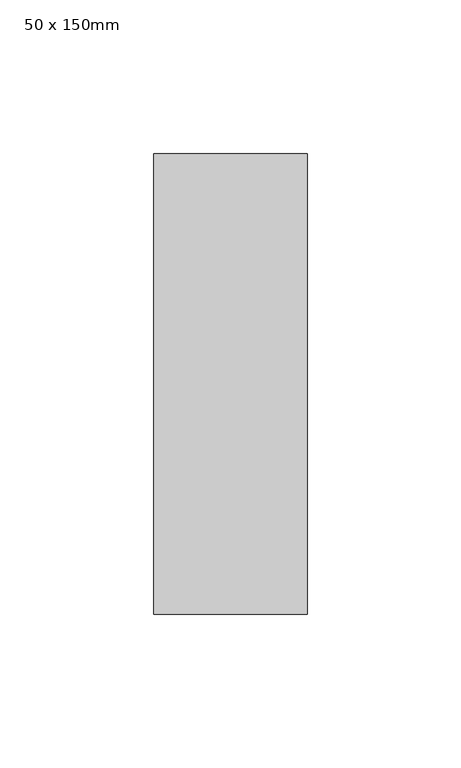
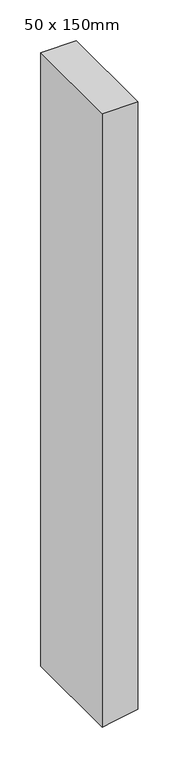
"""IFC4 building model written with IfcOpenShell, lengths in millimetres: member geometry, 矩形豎框 : 50 x 150mm."""

import ifcopenshell
import ifcopenshell.guid

model = None  # the IFC model being written
_history = None  # IfcOwnerHistory: only IFC2X3 demands one
_inside = {}  # id of a spatial element -> (the spatial element, [elements in it])
_under = {}  # id of a project, library or spatial element -> (it, [spatial elements below it])
_declared = {}  # id of a project -> (the project, [libraries it declares])
_typed = {}  # id of a type object -> (the type object, [elements of that type])
_made_of = {}  # id of a material, layer set ... -> (it, [elements and type objects made of it])


def new_model(schema):
    """Start an empty IFC model of exactly this schema.

    Asked for "IFC4X3", IfcOpenShell would pick the latest addendum, in which some entities
    have other attributes; the version numbers below select the first issue.
    IFC2X3 requires an IfcOwnerHistory on every rooted entity: one is made here for all.
    """
    global model, _history
    if schema == "IFC4X3":
        model = ifcopenshell.file(schema_version=(4, 3, 0, 0))
    else:
        model = ifcopenshell.file(schema=schema)
    _inside.clear()
    _under.clear()
    _declared.clear()
    _typed.clear()
    _made_of.clear()
    _history = None
    if model.schema == "IFC2X3":
        org = make("IfcOrganization", Name="unknown")
        user = make(
            "IfcPersonAndOrganization",
            ThePerson=make("IfcPerson", FamilyName="unknown"),
            TheOrganization=org,
        )
        app = make(
            "IfcApplication",
            ApplicationDeveloper=org,
            Version="unknown",
            ApplicationFullName="unknown",
            ApplicationIdentifier="unknown",
        )
        _history = make(
            "IfcOwnerHistory",
            OwningUser=user,
            OwningApplication=app,
            ChangeAction="ADDED",
            CreationDate=0,
        )
    return model


def make(cls, **values):
    """One entity of the class cls with the attributes given. An attribute that is None is left unset."""
    return model.create_entity(
        cls, **{name: value for name, value in values.items() if value is not None}
    )


def rooted(cls, **values):
    """An entity with a GlobalId (a new one), such as an element, a storey or a relation."""
    return make(cls, GlobalId=ifcopenshell.guid.new(), OwnerHistory=_history, **values)


def si_unit(unit_type, name, prefix=None):
    """IfcSIUnit, for example si_unit("LENGTHUNIT", "METRE", prefix="MILLI")."""
    return make("IfcSIUnit", UnitType=unit_type, Prefix=prefix, Name=name)


def assignment(units):
    """IfcUnitAssignment: the units of a project."""
    return None if units is None else make("IfcUnitAssignment", Units=units)


def point(xyz):
    """IfcCartesianPoint."""
    return None if xyz is None else make("IfcCartesianPoint", Coordinates=xyz)


def direction(xyz):
    """IfcDirection."""
    return None if xyz is None else make("IfcDirection", DirectionRatios=xyz)


def frame(location, z_axis=None, x_axis=None):
    """IfcAxis2Placement3D, a coordinate frame: its origin and axes. An axis left out is left unset."""
    return make(
        "IfcAxis2Placement3D",
        Location=point(location),
        Axis=direction(z_axis),
        RefDirection=direction(x_axis),
    )


def origin():
    """The frame at (0, 0, 0) with its axes left unset."""
    return frame((0.0, 0.0, 0.0))


def place(relative_to, where):
    """IfcLocalPlacement: puts the frame where relative to a parent placement (None: the world)."""
    return make(
        "IfcLocalPlacement", PlacementRelTo=relative_to, RelativePlacement=where
    )


def context(
    kind, dimensions, precision=None, world=None, true_north=None, identifier=None
):
    """IfcGeometricRepresentationContext, for example the 3D "Model" context."""
    return make(
        "IfcGeometricRepresentationContext",
        ContextIdentifier=identifier,
        ContextType=kind,
        CoordinateSpaceDimension=dimensions,
        Precision=precision,
        WorldCoordinateSystem=world,
        TrueNorth=true_north,
    )


def project(units=None, contexts=None):
    """IfcProject with its units and contexts."""
    return rooted(
        "IfcProject",
        Name="project",
        RepresentationContexts=contexts,
        UnitsInContext=assignment(units),
    )


def spatial(cls, under=None, at=None, **own):
    """A site, building, storey or space (cls), placed at a placement, below another one or the project."""
    s = rooted(cls, ObjectPlacement=at, **own)
    if under is not None:
        _under.setdefault(under.id(), (under, []))[1].append(s)
    return s


def polyline(points):
    """IfcPolyline through the points."""
    return make("IfcPolyline", Points=[point(p) for p in points])


def outline(outer, holes=None, kind="AREA"):
    """IfcArbitraryClosedProfileDef: a profile drawn as a closed curve; with holes, ...WithVoids."""
    if holes is None:
        return make("IfcArbitraryClosedProfileDef", ProfileType=kind, OuterCurve=outer)
    return make(
        "IfcArbitraryProfileDefWithVoids",
        ProfileType=kind,
        OuterCurve=outer,
        InnerCurves=holes,
    )


def extrude(swept, where, along, depth):
    """IfcExtrudedAreaSolid: the profile swept, set in the frame where, extruded along a direction by depth."""
    return make(
        "IfcExtrudedAreaSolid",
        SweptArea=swept,
        Position=where,
        ExtrudedDirection=direction(along),
        Depth=depth,
    )


def shape(context_of_items, identifier, shape_type, items):
    """IfcShapeRepresentation: the items that make up one representation, for example the "Body"."""
    return make(
        "IfcShapeRepresentation",
        ContextOfItems=context_of_items,
        RepresentationIdentifier=identifier,
        RepresentationType=shape_type,
        Items=items,
    )


def source(mapping_origin, context_of_items, identifier, shape_type, items):
    """IfcRepresentationMap: a shape defined once, which mapped items show again and again."""
    return make(
        "IfcRepresentationMap",
        MappingOrigin=mapping_origin,
        MappedRepresentation=shape(context_of_items, identifier, shape_type, items),
    )


def transform(
    local_origin,
    x_axis=None,
    y_axis=None,
    z_axis=None,
    scale=None,
    scale2=None,
    scale3=None,
    uniform=True,
):
    """IfcCartesianTransformationOperator3D, or its non-uniform kind. x_axis, y_axis, z_axis: its Axis1, 2, 3."""
    if uniform:
        return make(
            "IfcCartesianTransformationOperator3D",
            Axis1=direction(x_axis),
            Axis2=direction(y_axis),
            LocalOrigin=point(local_origin),
            Scale=scale,
            Axis3=direction(z_axis),
        )
    return make(
        "IfcCartesianTransformationOperator3DnonUniform",
        Axis1=direction(x_axis),
        Axis2=direction(y_axis),
        LocalOrigin=point(local_origin),
        Scale=scale,
        Axis3=direction(z_axis),
        Scale2=scale2,
        Scale3=scale3,
    )


def mapped(mapping_source, mapping_target):
    """IfcMappedItem: shows the shape of a source again, moved by a transform."""
    return make(
        "IfcMappedItem", MappingSource=mapping_source, MappingTarget=mapping_target
    )


def made_of(thing, what):
    """Note that an element or type object is made of a material, layer set ...; save() writes the relation."""
    if what is not None:
        _made_of.setdefault(what.id(), (what, []))[1].append(thing)
    return thing


def element(
    cls,
    number,
    at=None,
    inside=None,
    cuts=None,
    type_object=None,
    material=None,
    context=None,
    identifier="Body",
    shape_type=None,
    held_by="IfcProductDefinitionShape",
    body=None,
    shapes=None,
    **own,
):
    """One element of the class cls, such as IfcWall. Its Tag is "e" and its number.

    at: its placement. inside: the storey or other place that contains it. cuts: it is an
    opening in that element (IfcRelVoidsElement). A single representation is given by context,
    identifier, shape_type and body (its items); several are given by shapes. held_by: the class
    of the entity that holds the representations. save() writes the other relations.
    """
    e = rooted(cls, Tag="e%d" % number, ObjectPlacement=at, **own)
    if body is not None:
        shapes = [shape(context, identifier, shape_type, body)]
    if shapes is not None:
        e.Representation = make(held_by, Representations=shapes)
    if inside is not None:
        _inside.setdefault(inside.id(), (inside, []))[1].append(e)
    if cuts is not None:
        rooted(
            "IfcRelVoidsElement", RelatingBuildingElement=cuts, RelatedOpeningElement=e
        )
    if type_object is not None:
        _typed.setdefault(type_object.id(), (type_object, []))[1].append(e)
    return made_of(e, material)


def aggregate(whole, parts):
    """IfcRelAggregates: a whole, such as a stair, and the parts it consists of."""
    return rooted("IfcRelAggregates", RelatingObject=whole, RelatedObjects=parts)


def save(model, path):
    """Write the relations noted so far, then the file.

    IfcRelAggregates (storeys below a building ...), IfcRelContainedInSpatialStructure (elements
    in a storey), IfcRelDefinesByType, IfcRelAssociatesMaterial and IfcRelDeclares: one each for
    every whole, place, type object, material and project.
    """
    for whole, parts in _under.values():
        aggregate(whole, parts)
    for where, things in _inside.values():
        rooted(
            "IfcRelContainedInSpatialStructure",
            RelatedElements=things,
            RelatingStructure=where,
        )
    for kind, things in _typed.values():
        rooted("IfcRelDefinesByType", RelatedObjects=things, RelatingType=kind)
    for what, things in _made_of.values():
        rooted("IfcRelAssociatesMaterial", RelatedObjects=things, RelatingMaterial=what)
    for by, libraries in _declared.values():
        rooted("IfcRelDeclares", RelatingContext=by, RelatedDefinitions=libraries)
    model.write(path)


def member_50_x_150mm_05ab2822(model_context):
    return source(origin(), model_context, "Body", "SweptSolid", [
        extrude(outline(polyline([(0.0, 25.0), (0.0, -25.0), (-914.9918473, -25.0), (-912.1146157, -8.6824089), (-906.1754983, 25.0), (0.0, 25.0)])), frame((0.0, -75.0, 0.0), z_axis=(0.0, 1.0, 0.0), x_axis=(0.0, 0.0, 1.0)), (0.0, 0.0, 1.0), 150.0),
    ])


if __name__ == "__main__":
    model = new_model("IFC4")
    model_context = context("Model", 3, world=origin())
    ifc_project = project(units=[si_unit("LENGTHUNIT", "METRE", prefix="MILLI")], contexts=[model_context])
    site = spatial("IfcSite", under=ifc_project)
    building = spatial("IfcBuilding", under=site)
    placement = place(None, origin())
    member_50_x_150mm_shape = member_50_x_150mm_05ab2822(model_context)
    element("IfcMember", 1, ObjectType="矩形豎框 : 50 x 150mm", at=placement, inside=building, context=model_context, shape_type="MappedRepresentation", body=[
        mapped(member_50_x_150mm_shape, transform((0.0, 0.0, 0.0), x_axis=(1.0, 0.0, 0.0), y_axis=(0.0, 1.0, 0.0), z_axis=(0.0, 0.0, 1.0))),
    ])
    save(model, "model.ifc")
